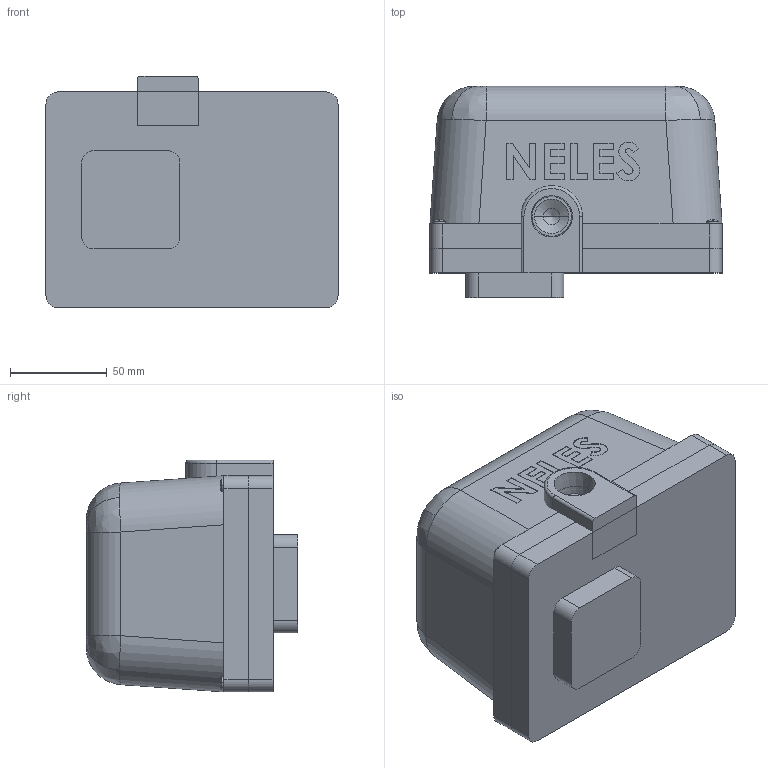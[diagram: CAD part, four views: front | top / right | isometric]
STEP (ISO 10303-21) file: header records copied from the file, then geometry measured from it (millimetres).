
FILE_DESCRIPTION (( 'STEP AP214' ), '1' );
FILE_NAME ('LCU.STEP', '2024-05-09T13:12:14', ( '' ), ( '' ), 'SwSTEP 2.0', 'SolidWorks 2020', '' );
FILE_SCHEMA (( 'AUTOMOTIVE_DESIGN' ));
Length unit declared in the file: millimetre
Products named in the file (1): LCU
Bounding box: 151.13 x 109.22 x 119.89 mm (x, y, z)
Volume: 1526197 mm3; surface area: 118875.8 mm2
Topology: 3 solids, 3 shells, 250 faces, 662 edges, 433 vertices
Faces by surface type: plane 162, bspline 36, cylinder 35, cone 8, sphere 8, torus 1
Entity records: 11898 total; most frequent: CARTESIAN_POINT 3049, ORIENTED_EDGE 1320, DIRECTION 1159, EDGE_CURVE 660, VECTOR 433, VERTEX_POINT 433, LINE 433, AXIS2_PLACEMENT_3D 363
